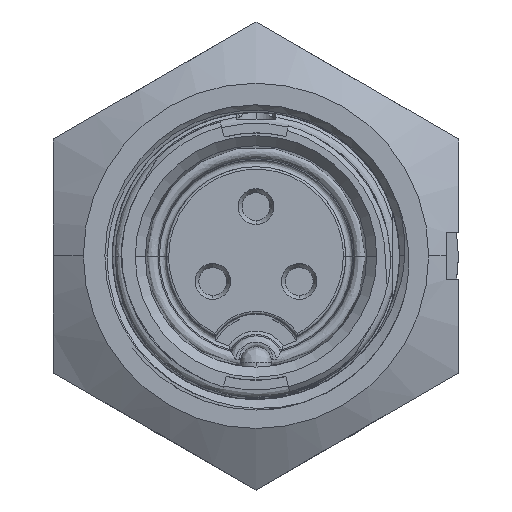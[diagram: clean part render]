
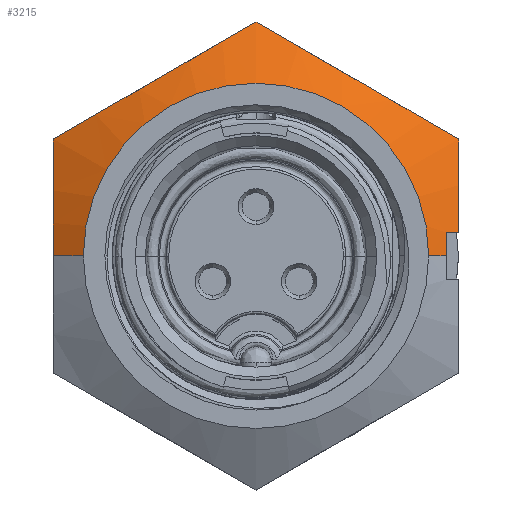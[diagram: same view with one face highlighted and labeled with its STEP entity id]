
A CAD part, top view. The second image highlights one B-rep face of the part: STEP entity #3215.
In plain terms, the highlighted conical face has half-angle 60 degrees and reference radius 11.934 mm.
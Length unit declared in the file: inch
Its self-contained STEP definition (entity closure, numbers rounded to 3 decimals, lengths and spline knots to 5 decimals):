
#23 = EDGE_CURVE ( 'NONE', #10909, #13708, #30638, .T. ) ;
#67 = EDGE_CURVE ( 'NONE', #10620, #10909, #31985, .T. ) ;
#116 = EDGE_CURVE ( 'NONE', #22401, #10620, #9598, .T. ) ;
#125 = EDGE_CURVE ( 'NONE', #22401, #22579, #2011, .T. ) ;
#136 = DIRECTION ( 'NONE',  ( -0.866, 0., -0.5 ) ) ;
#164 = EDGE_CURVE ( 'NONE', #20458, #22579, #10391, .T. ) ;
#223 = CARTESIAN_POINT ( 'NONE',  ( 0.38125, 0., 1.12072 ) ) ;
#2011 = B_SPLINE_CURVE_WITH_KNOTS ( 'NONE', 3,
 ( #26554, #26637, #26487, #26446 ),
 .UNSPECIFIED., .F., .F.,
 ( 4, 4 ),
 ( 0., 0.00119 ),
 .UNSPECIFIED. ) ;
#2213 = CARTESIAN_POINT ( 'NONE',  ( 0.34612, 0., 1.141 ) ) ;
#3169 = ORIENTED_EDGE ( 'NONE', *, *, #125, .F. ) ;
#3215 = ADVANCED_FACE ( 'NONE', ( #16923 ), #17758, .T. ) ;
#3234 = DIRECTION ( 'NONE',  ( -1., 0., 0. ) ) ;
#3456 = CARTESIAN_POINT ( 'NONE',  ( 0., 0., 1.06957 ) ) ;
#3515 = DIRECTION ( 'NONE',  ( 0., 0., -1. ) ) ;
#3820 = CARTESIAN_POINT ( 'NONE',  ( 0.38125, 0.047, 1.11905 ) ) ;
#4658 = ORIENTED_EDGE ( 'NONE', *, *, #23, .T. ) ;
#5380 = ORIENTED_EDGE ( 'NONE', *, *, #67, .T. ) ;
#5697 = ORIENTED_EDGE ( 'NONE', *, *, #116, .T. ) ;
#6410 = ORIENTED_EDGE ( 'NONE', *, *, #13406, .T. ) ;
#7022 = ORIENTED_EDGE ( 'NONE', *, *, #22623, .F. ) ;
#7143 = VERTEX_POINT ( 'NONE', #16691 ) ;
#7440 = ORIENTED_EDGE ( 'NONE', *, *, #13351, .T. ) ;
#7532 = DIRECTION ( 'NONE',  ( -1., 0., 0. ) ) ;
#7544 = DIRECTION ( 'NONE',  ( 0., 0., -1. ) ) ;
#7573 = CARTESIAN_POINT ( 'NONE',  ( 0., 0., 1.141 ) ) ;
#7974 = EDGE_CURVE ( 'NONE', #7143, #20458, #32066, .T. ) ;
#9120 = CARTESIAN_POINT ( 'NONE',  ( -0.40625, 0.23455, 1.07 ) ) ;
#9126 = CARTESIAN_POINT ( 'NONE',  ( -0.37304, 0.25372, 1.08107 ) ) ;
#9157 = CARTESIAN_POINT ( 'NONE',  ( -0.33956, 0.27305, 1.0902 ) ) ;
#9196 = CARTESIAN_POINT ( 'NONE',  ( -0.28872, 0.3024, 1.09969 ) ) ;
#9232 = CARTESIAN_POINT ( 'NONE',  ( -0.27168, 0.31224, 1.10214 ) ) ;
#9234 = CARTESIAN_POINT ( 'NONE',  ( -0.23736, 0.33206, 1.10545 ) ) ;
#9265 = CARTESIAN_POINT ( 'NONE',  ( -0.22001, 0.34208, 1.1063 ) ) ;
#9303 = CARTESIAN_POINT ( 'NONE',  ( -0.1682, 0.37199, 1.10626 ) ) ;
#9340 = CARTESIAN_POINT ( 'NONE',  ( -0.13409, 0.39168, 1.10279 ) ) ;
#9345 = CARTESIAN_POINT ( 'NONE',  ( -0.06657, 0.43066, 1.09017 ) ) ;
#9416 = CARTESIAN_POINT ( 'NONE',  ( 0., 0.4691, 1.07 ) ) ;
#9454 = CARTESIAN_POINT ( 'NONE',  ( -0.03317, 0.44995, 1.08106 ) ) ;
#9598 = B_SPLINE_CURVE_WITH_KNOTS ( 'NONE', 3,
 ( #27111, #26706, #26633, #26590 ),
 .UNSPECIFIED., .F., .F.,
 ( 4, 4 ),
 ( 0., 0.00073 ),
 .UNSPECIFIED. ) ;
#9880 = CARTESIAN_POINT ( 'NONE',  ( -0.40625, 0., 1.10628 ) ) ;
#9918 = CARTESIAN_POINT ( 'NONE',  ( -0.40625, 0.03996, 1.10628 ) ) ;
#9949 = CARTESIAN_POINT ( 'NONE',  ( -0.40625, 0.07942, 1.10283 ) ) ;
#9985 = CARTESIAN_POINT ( 'NONE',  ( -0.40625, 0.15753, 1.0902 ) ) ;
#10132 = CARTESIAN_POINT ( 'NONE',  ( -0.40625, 0.19618, 1.08108 ) ) ;
#10236 = CARTESIAN_POINT ( 'NONE',  ( -0.40625, 0.23455, 1.07 ) ) ;
#10391 = LINE ( 'NONE', #26416, #10487 ) ;
#10487 = VECTOR ( 'NONE', #26370, 39.37008 ) ;
#10620 = VERTEX_POINT ( 'NONE', #26253 ) ;
#10909 = VERTEX_POINT ( 'NONE', #17344 ) ;
#11274 = AXIS2_PLACEMENT_3D ( 'NONE', #7573, #7544, #7532 ) ;
#11777 = B_SPLINE_CURVE_WITH_KNOTS ( 'NONE', 3,
 ( #10236, #10132, #9985, #9949, #9918, #9880 ),
 .UNSPECIFIED., .F., .F.,
 ( 4, 2, 4 ),
 ( 0., 0.00301, 0.00603 ),
 .UNSPECIFIED. ) ;
#11969 = VERTEX_POINT ( 'NONE', #27881 ) ;
#13351 = EDGE_CURVE ( 'NONE', #11969, #15803, #11777, .T. ) ;
#13406 = EDGE_CURVE ( 'NONE', #13708, #11969, #23598, .T. ) ;
#13708 = VERTEX_POINT ( 'NONE', #24487 ) ;
#14205 = ORIENTED_EDGE ( 'NONE', *, *, #7974, .T. ) ;
#15303 = CARTESIAN_POINT ( 'NONE',  ( -0.40625, 0., 1.10628 ) ) ;
#15803 = VERTEX_POINT ( 'NONE', #15303 ) ;
#16691 = CARTESIAN_POINT ( 'NONE',  ( -0.34612, 0., 1.141 ) ) ;
#16923 = FACE_OUTER_BOUND ( 'NONE', #18210, .T. ) ;
#17344 = CARTESIAN_POINT ( 'NONE',  ( 0.40625, 0.23455, 1.07 ) ) ;
#17758 = CONICAL_SURFACE ( 'NONE', #29281, 0.46983, 1.047 ) ;
#18210 = EDGE_LOOP ( 'NONE', ( #14205, #28464, #3169, #5697, #5380, #4658, #6410, #7440, #7022 ) ) ;
#20458 = VERTEX_POINT ( 'NONE', #2213 ) ;
#21054 = VECTOR ( 'NONE', #136, 39.37008 ) ;
#22401 = VERTEX_POINT ( 'NONE', #3820 ) ;
#22579 = VERTEX_POINT ( 'NONE', #223 ) ;
#22623 = EDGE_CURVE ( 'NONE', #7143, #15803, #32646, .T. ) ;
#23598 = B_SPLINE_CURVE_WITH_KNOTS ( 'NONE', 3,
 ( #9416, #9454, #9345, #9340, #9303, #9265, #9234, #9232, #9196, #9157, #9126, #9120 ),
 .UNSPECIFIED., .F., .F.,
 ( 4, 2, 2, 2, 2, 4 ),
 ( 0., 0.00301, 0.00602, 0.00752, 0.00903, 0.01203 ),
 .UNSPECIFIED. ) ;
#24487 = CARTESIAN_POINT ( 'NONE',  ( 0., 0.4691, 1.07 ) ) ;
#25809 = CARTESIAN_POINT ( 'NONE',  ( -0.46983, 0., 1.06957 ) ) ;
#26253 = CARTESIAN_POINT ( 'NONE',  ( 0.40625, 0.047, 1.10472 ) ) ;
#26370 = DIRECTION ( 'NONE',  ( 0.866, 0., -0.5 ) ) ;
#26416 = CARTESIAN_POINT ( 'NONE',  ( 0.46983, 0., 1.06957 ) ) ;
#26446 = CARTESIAN_POINT ( 'NONE',  ( 0.38125, 0., 1.12072 ) ) ;
#26487 = CARTESIAN_POINT ( 'NONE',  ( 0.38125, 0.01567, 1.12072 ) ) ;
#26554 = CARTESIAN_POINT ( 'NONE',  ( 0.38125, 0.047, 1.11905 ) ) ;
#26590 = CARTESIAN_POINT ( 'NONE',  ( 0.40625, 0.047, 1.10472 ) ) ;
#26633 = CARTESIAN_POINT ( 'NONE',  ( 0.39792, 0.047, 1.1095 ) ) ;
#26637 = CARTESIAN_POINT ( 'NONE',  ( 0.38125, 0.03133, 1.12016 ) ) ;
#26706 = CARTESIAN_POINT ( 'NONE',  ( 0.38958, 0.047, 1.11428 ) ) ;
#26779 = CARTESIAN_POINT ( 'NONE',  ( 0.40625, 0.23455, 1.07 ) ) ;
#26819 = CARTESIAN_POINT ( 'NONE',  ( 0.40625, 0.17317, 1.08772 ) ) ;
#27003 = CARTESIAN_POINT ( 'NONE',  ( 0.40625, 0.047, 1.10472 ) ) ;
#27111 = CARTESIAN_POINT ( 'NONE',  ( 0.38125, 0.047, 1.11905 ) ) ;
#27147 = CARTESIAN_POINT ( 'NONE',  ( 0., 0.4691, 1.07 ) ) ;
#27183 = CARTESIAN_POINT ( 'NONE',  ( 0.03321, 0.44992, 1.08107 ) ) ;
#27188 = CARTESIAN_POINT ( 'NONE',  ( 0.06669, 0.43059, 1.0902 ) ) ;
#27221 = CARTESIAN_POINT ( 'NONE',  ( 0.11753, 0.40124, 1.09969 ) ) ;
#27232 = CARTESIAN_POINT ( 'NONE',  ( 0.13457, 0.3914, 1.10214 ) ) ;
#27257 = CARTESIAN_POINT ( 'NONE',  ( 0.40625, 0.23455, 1.07 ) ) ;
#27286 = CARTESIAN_POINT ( 'NONE',  ( 0.27216, 0.31196, 1.10279 ) ) ;
#27290 = CARTESIAN_POINT ( 'NONE',  ( 0.37308, 0.2537, 1.08106 ) ) ;
#27313 = CARTESIAN_POINT ( 'NONE',  ( 0.23805, 0.33166, 1.10626 ) ) ;
#27351 = CARTESIAN_POINT ( 'NONE',  ( 0.18624, 0.36157, 1.1063 ) ) ;
#27385 = CARTESIAN_POINT ( 'NONE',  ( 0.33968, 0.27299, 1.09017 ) ) ;
#27415 = CARTESIAN_POINT ( 'NONE',  ( 0.16889, 0.37159, 1.10545 ) ) ;
#27488 = CARTESIAN_POINT ( 'NONE',  ( 0.40625, 0.11087, 1.10048 ) ) ;
#27881 = CARTESIAN_POINT ( 'NONE',  ( -0.40625, 0.23455, 1.07 ) ) ;
#28464 = ORIENTED_EDGE ( 'NONE', *, *, #164, .T. ) ;
#29281 = AXIS2_PLACEMENT_3D ( 'NONE', #3456, #3515, #3234 ) ;
#30638 = B_SPLINE_CURVE_WITH_KNOTS ( 'NONE', 3,
 ( #27257, #27290, #27385, #27286, #27313, #27351, #27415, #27232, #27221, #27188, #27183, #27147 ),
 .UNSPECIFIED., .F., .F.,
 ( 4, 2, 2, 2, 2, 4 ),
 ( 0., 0.00301, 0.00602, 0.00752, 0.00903, 0.01203 ),
 .UNSPECIFIED. ) ;
#31985 = B_SPLINE_CURVE_WITH_KNOTS ( 'NONE', 3,
 ( #27003, #27488, #26819, #26779 ),
 .UNSPECIFIED., .F., .F.,
 ( 4, 4 ),
 ( 0., 0.00484 ),
 .UNSPECIFIED. ) ;
#32066 = CIRCLE ( 'NONE', #11274, 0.34612 ) ;
#32646 = LINE ( 'NONE', #25809, #21054 ) ;
